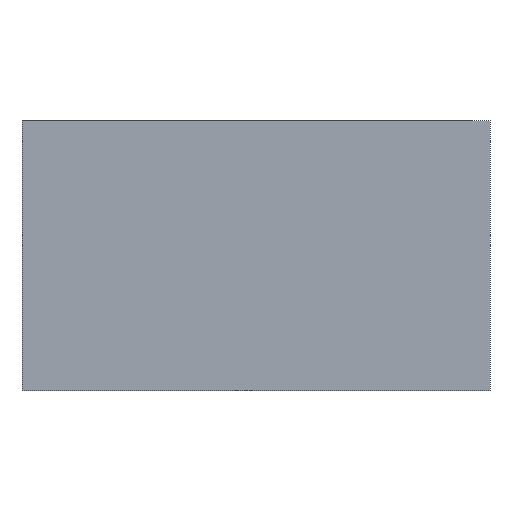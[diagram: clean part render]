
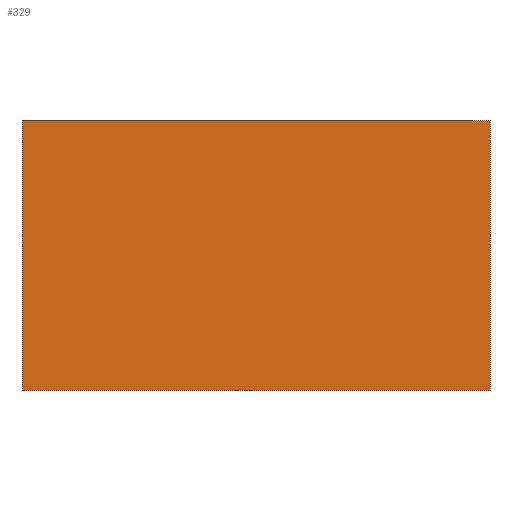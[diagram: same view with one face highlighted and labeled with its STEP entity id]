
A CAD part, front view. The second image highlights one B-rep face of the part: STEP entity #329.
In plain terms, the highlighted planar face has unit normal (0, -1, 0).
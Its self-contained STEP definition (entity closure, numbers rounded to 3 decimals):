
#28 = VERTEX_POINT ( 'NONE', #84 ) ;
#29 = VERTEX_POINT ( 'NONE', #64 ) ;
#31 = VERTEX_POINT ( 'NONE', #63 ) ;
#46 = VERTEX_POINT ( 'NONE', #88 ) ;
#63 = CARTESIAN_POINT ( 'NONE',  ( -104., 0., 0. ) ) ;
#64 = CARTESIAN_POINT ( 'NONE',  ( 104., 0., 120. ) ) ;
#84 = CARTESIAN_POINT ( 'NONE',  ( -104., 0., 120. ) ) ;
#88 = CARTESIAN_POINT ( 'NONE',  ( 104., 0., 0. ) ) ;
#118 = PLANE ( 'NONE',  #415 ) ;
#121 = CARTESIAN_POINT ( 'NONE',  ( -104., 0., 120. ) ) ;
#127 = DIRECTION ( 'NONE',  ( 0., 1., 0. ) ) ;
#128 = DIRECTION ( 'NONE',  ( -1., 0., 0. ) ) ;
#179 = CARTESIAN_POINT ( 'NONE',  ( -104., 0., 0. ) ) ;
#180 = DIRECTION ( 'NONE',  ( 1., 0., 0. ) ) ;
#191 = CARTESIAN_POINT ( 'NONE',  ( -104., 0., 120. ) ) ;
#193 = CARTESIAN_POINT ( 'NONE',  ( 104., 0., 120. ) ) ;
#194 = DIRECTION ( 'NONE',  ( 1., 0., 0. ) ) ;
#198 = DIRECTION ( 'NONE',  ( 0., 0., -1. ) ) ;
#283 = CARTESIAN_POINT ( 'NONE',  ( -104., 0., 120. ) ) ;
#284 = DIRECTION ( 'NONE',  ( 0., 0., -1. ) ) ;
#329 = ADVANCED_FACE ( 'NONE', ( #476 ), #118, .F. ) ;
#344 = EDGE_CURVE ( 'NONE', #31, #46, #469, .T. ) ;
#353 = EDGE_CURVE ( 'NONE', #28, #29, #464, .T. ) ;
#355 = EDGE_CURVE ( 'NONE', #29, #46, #545, .T. ) ;
#398 = EDGE_CURVE ( 'NONE', #28, #31, #723, .T. ) ;
#415 = AXIS2_PLACEMENT_3D ( 'NONE', #121, #127, #128 ) ;
#460 = VECTOR ( 'NONE', #198, 1000. ) ;
#464 = LINE ( 'NONE', #191, #550 ) ;
#468 = VECTOR ( 'NONE', #180, 1000. ) ;
#469 = LINE ( 'NONE', #179, #468 ) ;
#476 = FACE_OUTER_BOUND ( 'NONE', #682, .T. ) ;
#545 = LINE ( 'NONE', #193, #460 ) ;
#550 = VECTOR ( 'NONE', #194, 1000. ) ;
#581 = ORIENTED_EDGE ( 'NONE', *, *, #344, .T. ) ;
#582 = ORIENTED_EDGE ( 'NONE', *, *, #355, .F. ) ;
#583 = ORIENTED_EDGE ( 'NONE', *, *, #353, .F. ) ;
#602 = ORIENTED_EDGE ( 'NONE', *, *, #398, .T. ) ;
#682 = EDGE_LOOP ( 'NONE', ( #581, #582, #583, #602 ) ) ;
#723 = LINE ( 'NONE', #283, #724 ) ;
#724 = VECTOR ( 'NONE', #284, 1000. ) ;
